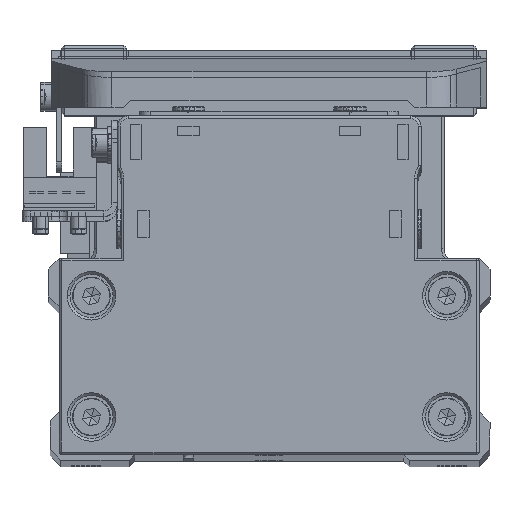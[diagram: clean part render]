
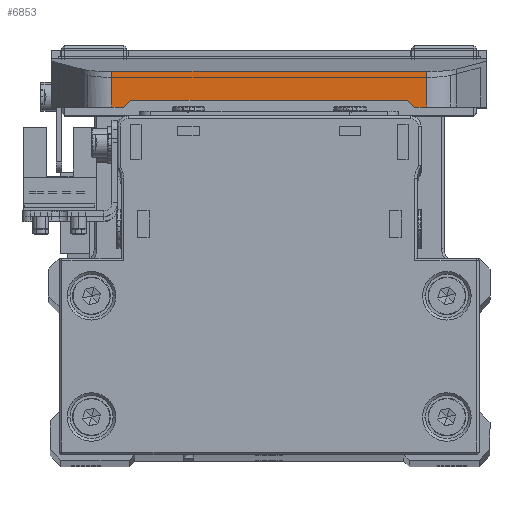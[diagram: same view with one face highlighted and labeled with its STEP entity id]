
A CAD part, top view. The second image highlights one B-rep face of the part: STEP entity #6853.
In plain terms, the highlighted planar face has unit normal (0, 0, 1) as drawn and (-1, 0, 0) by its records, which use the part's own axes.
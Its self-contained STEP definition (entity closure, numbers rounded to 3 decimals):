
#52 = DIRECTION ( 'NONE',  ( 1., 0., 0. ) ) ;
#453 = ORIENTED_EDGE ( 'NONE', *, *, #7012, .T. ) ;
#881 = VERTEX_POINT ( 'NONE', #28068 ) ;
#897 = EDGE_CURVE ( 'NONE', #5122, #34892, #1210, .T. ) ;
#960 = LINE ( 'NONE', #12916, #5056 ) ;
#1210 = LINE ( 'NONE', #13170, #4852 ) ;
#1508 = VECTOR ( 'NONE', #3192, 1000. ) ;
#1904 = VECTOR ( 'NONE', #15920, 1000. ) ;
#2192 = ORIENTED_EDGE ( 'NONE', *, *, #8203, .T. ) ;
#2992 = FACE_OUTER_BOUND ( 'NONE', #35505, .T. ) ;
#3192 = DIRECTION ( 'NONE',  ( 0., -1., 0. ) ) ;
#3951 = CARTESIAN_POINT ( 'NONE',  ( -67.5, 9.3, 25.5 ) ) ;
#4460 = EDGE_CURVE ( 'NONE', #881, #10500, #5254, .T. ) ;
#4679 = CARTESIAN_POINT ( 'NONE',  ( -67.5, 10.6, 29.225 ) ) ;
#4807 = EDGE_CURVE ( 'NONE', #29302, #5122, #10326, .T. ) ;
#4852 = VECTOR ( 'NONE', #25115, 1000. ) ;
#5056 = VECTOR ( 'NONE', #24862, 1000. ) ;
#5122 = VERTEX_POINT ( 'NONE', #27339 ) ;
#5254 = LINE ( 'NONE', #17224, #13637 ) ;
#5568 = CARTESIAN_POINT ( 'NONE',  ( -67.5, 10.6, 40.4 ) ) ;
#6853 = ADVANCED_FACE ( 'NONE', ( #2992 ), #14958, .F. ) ;
#7012 = EDGE_CURVE ( 'NONE', #10500, #29302, #30801, .T. ) ;
#7388 = VECTOR ( 'NONE', #34216, 1000. ) ;
#8203 = EDGE_CURVE ( 'NONE', #34892, #13014, #18099, .T. ) ;
#8391 = CARTESIAN_POINT ( 'NONE',  ( -67.5, 10.6, 29.225 ) ) ;
#8916 = VERTEX_POINT ( 'NONE', #29723 ) ;
#10326 = LINE ( 'NONE', #22275, #7388 ) ;
#10435 = VECTOR ( 'NONE', #17536, 1000. ) ;
#10500 = VERTEX_POINT ( 'NONE', #28326 ) ;
#10677 = EDGE_CURVE ( 'NONE', #15583, #881, #32427, .T. ) ;
#12018 = DIRECTION ( 'NONE',  ( 0., 0., -1. ) ) ;
#12445 = ORIENTED_EDGE ( 'NONE', *, *, #22931, .T. ) ;
#12686 = VECTOR ( 'NONE', #20341, 1000. ) ;
#12916 = CARTESIAN_POINT ( 'NONE',  ( -67.5, 4., 40.4 ) ) ;
#13014 = VERTEX_POINT ( 'NONE', #17933 ) ;
#13170 = CARTESIAN_POINT ( 'NONE',  ( -67.5, 10.6, 40.4 ) ) ;
#13637 = VECTOR ( 'NONE', #29172, 1000. ) ;
#14958 = PLANE ( 'NONE',  #36321 ) ;
#15583 = VERTEX_POINT ( 'NONE', #4679 ) ;
#15920 = DIRECTION ( 'NONE',  ( 0., 0., -1. ) ) ;
#17224 = CARTESIAN_POINT ( 'NONE',  ( -67.5, 10.6, 27. ) ) ;
#17536 = DIRECTION ( 'NONE',  ( 0., 0., -1. ) ) ;
#17933 = CARTESIAN_POINT ( 'NONE',  ( -67.5, 4., -29.225 ) ) ;
#18099 = LINE ( 'NONE', #30053, #1508 ) ;
#19457 = ORIENTED_EDGE ( 'NONE', *, *, #4460, .T. ) ;
#20341 = DIRECTION ( 'NONE',  ( 0., 1., 0. ) ) ;
#21072 = EDGE_CURVE ( 'NONE', #8916, #13014, #960, .T. ) ;
#22275 = CARTESIAN_POINT ( 'NONE',  ( -67.5, 10.6, -27. ) ) ;
#22931 = EDGE_CURVE ( 'NONE', #8916, #15583, #35232, .T. ) ;
#23305 = CARTESIAN_POINT ( 'NONE',  ( -67.5, 9.3, -25.5 ) ) ;
#24347 = ORIENTED_EDGE ( 'NONE', *, *, #10677, .T. ) ;
#24862 = DIRECTION ( 'NONE',  ( 0., 0., -1. ) ) ;
#25115 = DIRECTION ( 'NONE',  ( 0., 0., -1. ) ) ;
#26915 = CARTESIAN_POINT ( 'NONE',  ( -67.5, 10.6, 40.4 ) ) ;
#27339 = CARTESIAN_POINT ( 'NONE',  ( -67.5, 10.6, -27. ) ) ;
#27512 = ORIENTED_EDGE ( 'NONE', *, *, #4807, .T. ) ;
#28068 = CARTESIAN_POINT ( 'NONE',  ( -67.5, 10.6, 27. ) ) ;
#28326 = CARTESIAN_POINT ( 'NONE',  ( -67.5, 9.3, 25.5 ) ) ;
#28528 = ORIENTED_EDGE ( 'NONE', *, *, #21072, .F. ) ;
#29172 = DIRECTION ( 'NONE',  ( 0., -0.655, -0.756 ) ) ;
#29302 = VERTEX_POINT ( 'NONE', #23305 ) ;
#29723 = CARTESIAN_POINT ( 'NONE',  ( -67.5, 4., 29.225 ) ) ;
#30053 = CARTESIAN_POINT ( 'NONE',  ( -67.5, 4., -29.225 ) ) ;
#30801 = LINE ( 'NONE', #3951, #1904 ) ;
#31597 = CARTESIAN_POINT ( 'NONE',  ( -67.5, 10.6, -29.225 ) ) ;
#32427 = LINE ( 'NONE', #5568, #10435 ) ;
#34216 = DIRECTION ( 'NONE',  ( 0., 0.655, -0.756 ) ) ;
#34892 = VERTEX_POINT ( 'NONE', #31597 ) ;
#35163 = ORIENTED_EDGE ( 'NONE', *, *, #897, .T. ) ;
#35232 = LINE ( 'NONE', #8391, #12686 ) ;
#35505 = EDGE_LOOP ( 'NONE', ( #453, #27512, #35163, #2192, #28528, #12445, #24347, #19457 ) ) ;
#36321 = AXIS2_PLACEMENT_3D ( 'NONE', #26915, #52, #12018 ) ;
